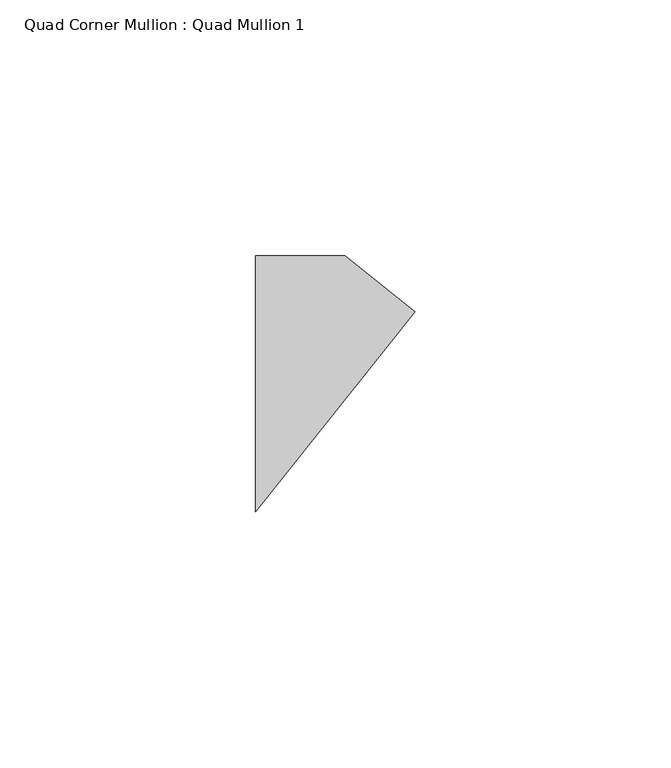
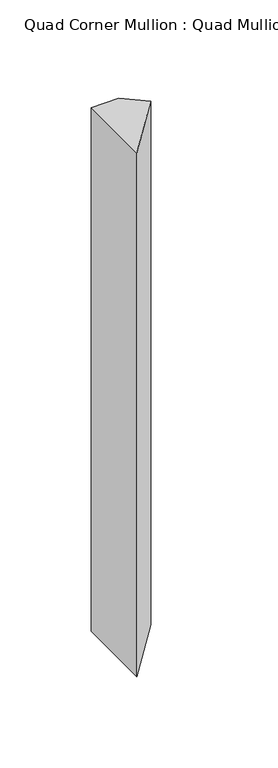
"""IFC4 building model written with IfcOpenShell, lengths in millimetres: member geometry, Quad Corner Mullion : Quad Mullion 1."""

from ifc_helpers import new_model, si_unit, frame, origin, place, context, project, spatial, polyline, outline, extrude, source, transform, mapped, element, save


def quad_corner_mullion_quad_mullion_1_bbeada6f(model_context):
    return source(origin(), model_context, "Body", "SweptSolid", [
        extrude(outline(polyline([(22.4169637, 14.1035695), (-8.7424787, -25.0), (-8.7424787, 25.0), (8.7424787, 25.0), (22.4169637, 14.1035695)])), frame((0.0, 0.0, -350.0), z_axis=(0.0, 0.0, 1.0), x_axis=(1.0, 0.0, 0.0)), (0.0, 0.0, 1.0), 350.0),
    ])


if __name__ == "__main__":
    model = new_model("IFC4")
    model_context = context("Model", 3, world=origin())
    ifc_project = project(units=[si_unit("LENGTHUNIT", "METRE", prefix="MILLI")], contexts=[model_context])
    site = spatial("IfcSite", under=ifc_project)
    building = spatial("IfcBuilding", under=site)
    placement = place(None, origin())
    quad_corner_mullion_quad_mullion_1_shape = quad_corner_mullion_quad_mullion_1_bbeada6f(model_context)
    element("IfcMember", 1, ObjectType="Quad Corner Mullion : Quad Mullion 1", at=placement, inside=building, context=model_context, shape_type="MappedRepresentation", body=[
        mapped(quad_corner_mullion_quad_mullion_1_shape, transform((0.0, 0.0, 0.0), x_axis=(1.0, 0.0, 0.0), y_axis=(0.0, 1.0, 0.0), z_axis=(0.0, 0.0, 1.0))),
    ])
    save(model, "model.ifc")
